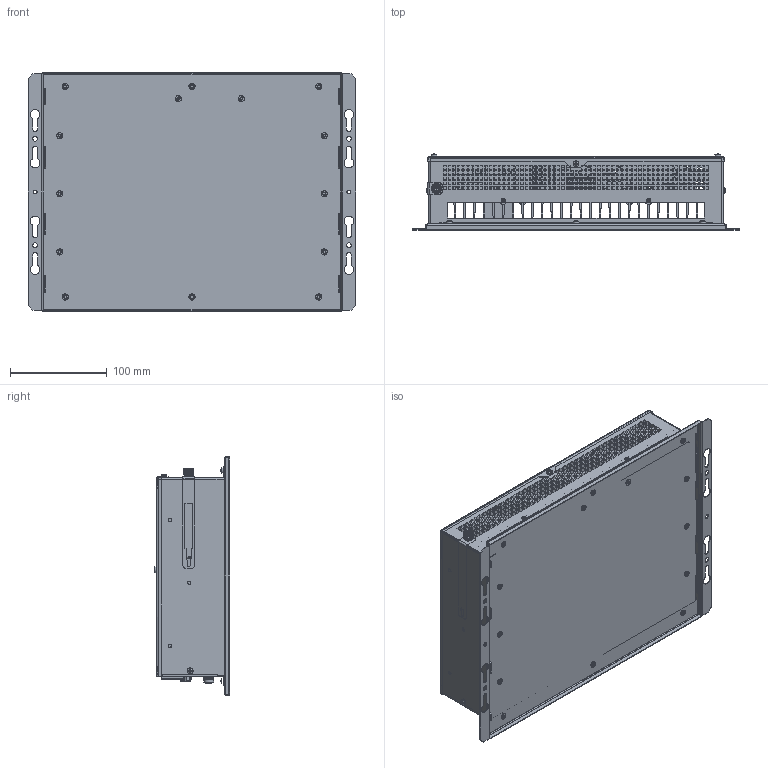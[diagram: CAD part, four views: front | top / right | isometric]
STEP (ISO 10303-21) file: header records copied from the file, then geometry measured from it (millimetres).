
FILE_DESCRIPTION((''),'2;1');
FILE_NAME('C6P34_Box_S0_ASM','2018-02-28T',('rafrev'),(''),'PRO/ENGINEER BY PARAMETRIC TECHNOLOGY CORPORATION, 2013410','PRO/ENGINEER BY PARAMETRIC TECHNOLOGY CORPORATION, 2013410','');
FILE_SCHEMA(('AUTOMOTIVE_DESIGN { 1 0 10303 214 1 1 1 1 }'));
Products named in the file (1): C6P34_Box_S0_ASM
Bounding box: 338.4 x 78.29 x 246 mm (x, y, z)
Surface area: 815809 mm2 (no closed solid volume)
Topology: 0 solids, 310 shells, 3273 faces, 17025 edges, 13867 vertices
Faces by surface type: plane 2480, cylinder 466, cone 197, bspline 65, sphere 28, torus 22, extrusion 15
Entity records: 189468 total; most frequent: CARTESIAN_POINT 46031, DIRECTION 25184, ORIENTED_EDGE 23967, EDGE_CURVE 17014, VERTEX_POINT 13867, VECTOR 13258, LINE 13243, AXIS2_PLACEMENT_3D 5963
